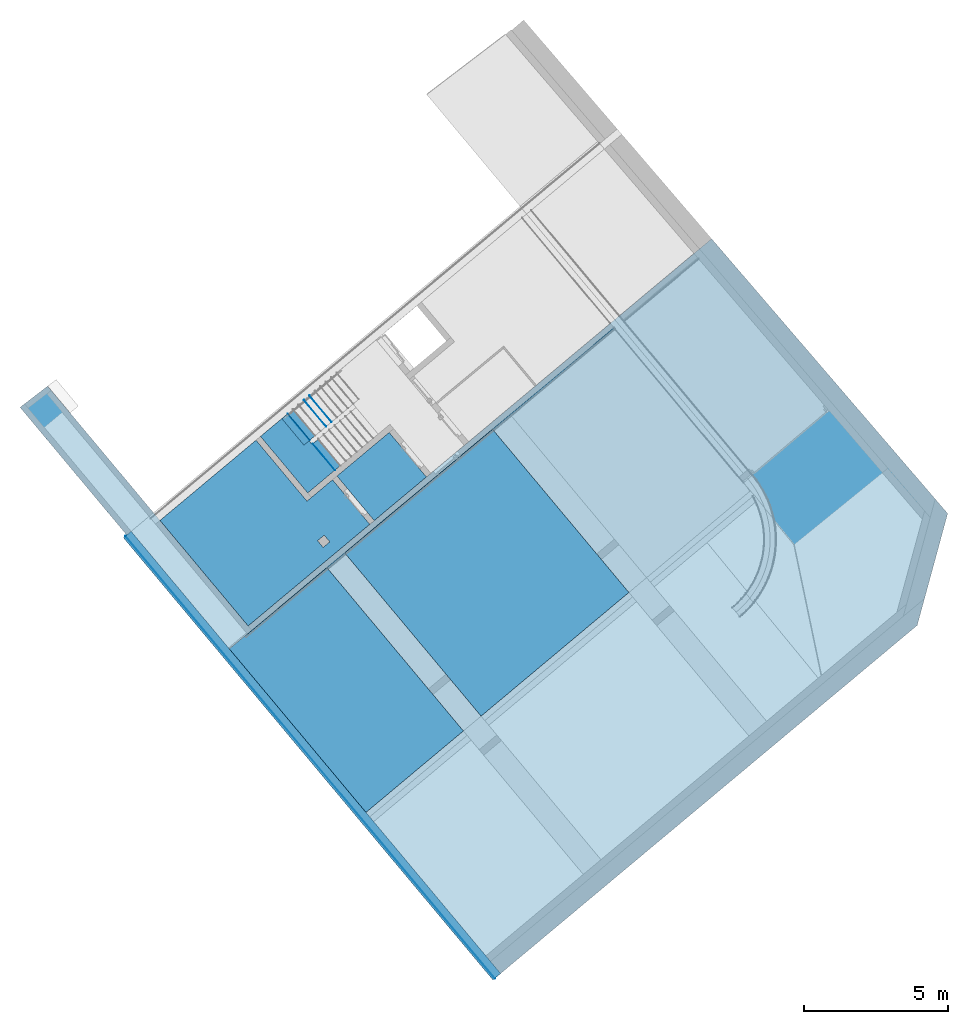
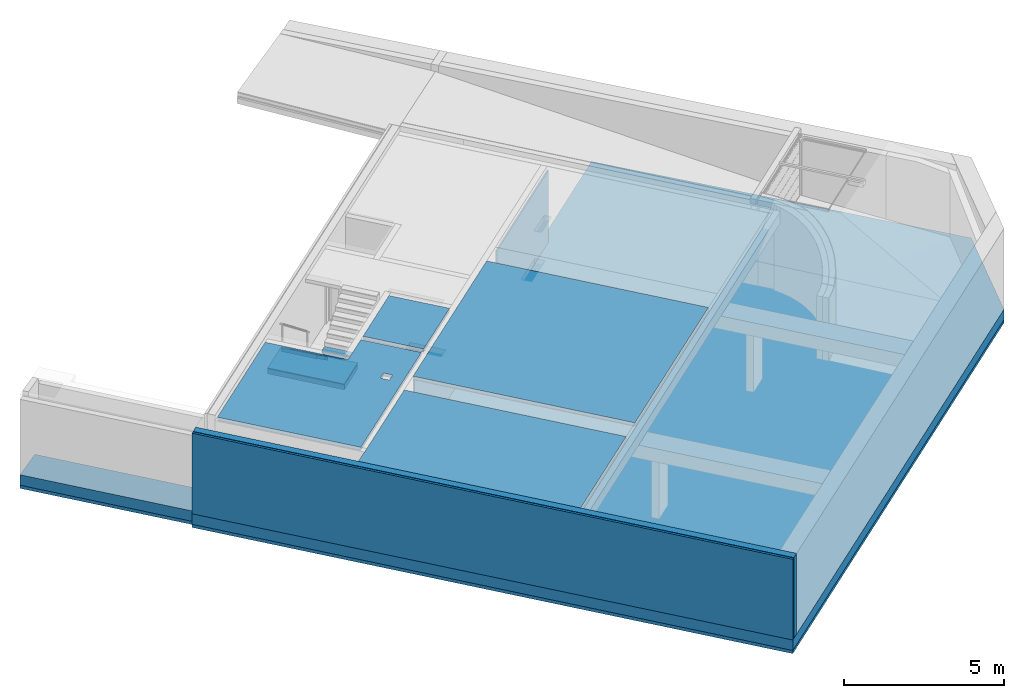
# One storey, part 8 of 14: 23 building element parts, 1 opening, 8 elements without a shape of their own.
"""IFC4 building model written with IfcOpenShell, lengths in metres."""

from ifc_helpers import new_model, entity, si_unit, converted_unit, derived_unit, direction, frame, origin_with_axes, place, context, subcontext, project, spatial, polygons, material, type_object, element, aggregate, save


model = new_model("IFC4")

# Units and contexts
model_context = context("Model", 3, precision=1e-05, world=origin_with_axes(), true_north=direction((0.0, 1.0)))
body_context = subcontext(model_context, "Body", "Model", "MODEL_VIEW")
ifc_project = project(units=[si_unit("LENGTHUNIT", "METRE"), si_unit("AREAUNIT", "SQUARE_METRE"), si_unit("VOLUMEUNIT", "CUBIC_METRE"), converted_unit("PLANEANGLEUNIT", "DEGREE", entity("IfcPlaneAngleMeasure", 0.0174532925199), si_unit("PLANEANGLEUNIT", "RADIAN"), dimensions=[0, 0, 0, 0, 0, 0, 0]), converted_unit("TIMEUNIT", "Year", entity("IfcTimeMeasure", 31556926.0), si_unit("TIMEUNIT", "SECOND"), dimensions=[0, 0, 1, 0, 0, 0, 0]), si_unit("MASSUNIT", "GRAM", prefix="KILO"), si_unit("THERMODYNAMICTEMPERATUREUNIT", "DEGREE_CELSIUS"), si_unit("LUMINOUSINTENSITYUNIT", "LUMEN"), si_unit("ENERGYUNIT", "JOULE", prefix="MEGA"), derived_unit("THERMALCONDUCTANCEUNIT", [(si_unit("POWERUNIT", "WATT"), 1), (si_unit("LENGTHUNIT", "METRE"), -1), (si_unit("THERMODYNAMICTEMPERATUREUNIT", "KELVIN"), -1)]), derived_unit("SPECIFICHEATCAPACITYUNIT", [(si_unit("ENERGYUNIT", "JOULE"), 1), (si_unit("MASSUNIT", "GRAM", prefix="KILO"), -1), (si_unit("THERMODYNAMICTEMPERATUREUNIT", "KELVIN"), -1)]), derived_unit("MASSDENSITYUNIT", [(si_unit("MASSUNIT", "GRAM", prefix="KILO"), 1), (si_unit("VOLUMEUNIT", "CUBIC_METRE"), -1)])], contexts=[model_context])

# Site, building, storey, space
site_placement = place(None, frame((-0.00153261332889, -0.00661245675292, 0.0), z_axis=(0.0, 0.0, 1.0), x_axis=(1.0, 0.0, 0.0)))
site = spatial("IfcSite", under=ifc_project, at=site_placement, Name="Gelände", CompositionType="ELEMENT")
building_placement = place(site_placement, origin_with_axes())
building = spatial("IfcBuilding", under=site, at=building_placement, Name="Gebäude", CompositionType="ELEMENT")
storey_placement = place(building_placement, frame((0.0, 0.0, -3.3), z_axis=(0.0, 0.0, 1.0), x_axis=(1.0, 0.0, 0.0)))
storey = spatial("IfcBuildingStorey", under=building, at=storey_placement, Name="UG1", CompositionType="ELEMENT", Elevation=-3.3)
space_1_placement = place(storey_placement, frame((-11.8951769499, 23.5097960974, 0.0), z_axis=(0.0, 0.0, 1.0), x_axis=(0.641209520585, -0.767365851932, 0.0)))
space_1 = spatial("IfcSpace", under=storey, at=space_1_placement, CompositionType="ELEMENT", PredefinedType="NOTDEFINED")

# Covering, opening, building element part
covering_type_1 = type_object("IfcCoveringType", Name="LB 6,5 cm einfach Vorsatzschale KG 65", PredefinedType="NOTDEFINED")
covering_1_placement = place(space_1_placement, frame((10.8993980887, 0.810381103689, 0.0), z_axis=(0.0, 0.0, 1.0), x_axis=(0.0, 1.0, 0.0)))
covering_1 = element("IfcCovering", 1, at=covering_1_placement, inside=space_1, type_object=covering_type_1, Name="Wand-007", PredefinedType="NOTDEFINED")
opening_placement = place(covering_1_placement, frame((9.12588353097, -1.57781343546e-10, 0.0), z_axis=(0.0, 0.0, 1.0), x_axis=(1.0, 0.0, 0.0)))
element("IfcOpeningElement", 2, at=opening_placement, cuts=covering_1, Name="Tür-001", context=body_context, identifier="Reference", shape_type="Tessellation", body=[
    polygons([(0.475, 8.16385069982, 2.05), (0.475, 8.16385069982, 0.0), (-0.475, 8.16385069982, 0.0), (-0.475, 8.16385069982, 2.05), (0.475, -8.22885069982, 2.05), (0.475, -8.22885069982, 0.0), (-0.475, -8.22885069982, 0.0), (-0.475, -8.22885069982, 2.05)], [[[1, 2, 3, 4]], [[5, 6, 2, 1]], [[6, 7, 3, 2]], [[7, 8, 4, 3]], [[8, 5, 1, 4]], [[7, 6, 5, 8]]], closed=True),
])
ifc_material_1 = material(Name="Mineralwolle weich")
building_element_part_1_placement = place(covering_1_placement, origin_with_axes())
building_element_part_1 = element("IfcBuildingElementPart", 3, at=building_element_part_1_placement, material=ifc_material_1, Name="Mineralwolle weich", PredefinedType="NOTDEFINED", context=body_context, shape_type="Tessellation", body=[
    polygons([(8.65088353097, -0.05, 0.0), (8.65088353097, -0.05, 2.05), (9.60088353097, -0.05, 2.05), (9.60088353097, -0.05, 0.0), (16.5897339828, -0.05, 0.0), (16.5897339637, -0.05, 2.75), (11.8956057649, -0.05, 2.75), (11.8956057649, -0.05, 2.15), (11.0956057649, -0.05, 2.15), (11.0956057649, -0.05, 2.75), (4.40043924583, -0.05, 2.75), (4.40043924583, -0.05, 2.1499999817), (3.60043924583, -0.05, 2.1499999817), (3.60043924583, -0.05, 2.75), (-0.100001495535, -0.05, 2.75), (-0.100001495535, -0.05, 0.0), (8.65088353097, 0.0, 0.0), (8.65088353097, 0.0, 2.05), (9.60088353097, 0.0, 2.05), (9.60088353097, 0.0, 0.0), (16.5897339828, 0.0, 0.0), (16.5897339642, -7.80723787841e-08, 2.75), (11.8956057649, 0.0, 2.75), (11.8956057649, 0.0, 2.15), (11.0956057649, 0.0, 2.15), (11.0956057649, 0.0, 2.75), (4.40043924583, 0.0, 2.75), (4.40043924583, 0.0, 2.1499999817), (3.60043924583, 0.0, 2.1499999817), (3.60043924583, 0.0, 2.75), (-0.100001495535, 0.0, 2.75), (-0.100001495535, 0.0, 0.0)], [[[1, 2, 3, 4, 5, 6, 7, 8, 9, 10, 11, 12, 13, 14, 15, 16]], [[2, 1, 17, 18]], [[3, 2, 18, 19]], [[4, 3, 19, 20]], [[4, 20, 21, 5]], [[22, 6, 5, 21]], [[7, 6, 22, 23]], [[7, 23, 24, 8]], [[8, 24, 25, 9]], [[10, 9, 25, 26]], [[11, 10, 26, 27]], [[11, 27, 28, 12]], [[12, 28, 29, 13]], [[14, 13, 29, 30]], [[30, 31, 15, 14]], [[15, 31, 32, 16]], [[17, 1, 16, 32]], [[18, 17, 32, 31, 30, 29, 28, 27, 26, 25, 24, 23, 22, 21, 20, 19]]], closed=True),
])
aggregate(covering_1, [building_element_part_1])

# Slab, building element parts
slab_type = type_object("IfcSlabType", Name="EB 01 Bodenplatte Garage 520", PredefinedType="NOTDEFINED")
slab_placement = place(storey_placement, frame((-11.2218153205, 24.2798734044, 0.0), z_axis=(0.0, 0.0, 1.0), x_axis=(1.0, 0.0, 0.0)))
slab = element("IfcSlab", 4, at=slab_placement, inside=storey, type_object=slab_type, Name="Decke-005", PredefinedType="NOTDEFINED")
ifc_material_2 = material(Name="WU-Beton")
building_element_part_2_placement = place(slab_placement, origin_with_axes())
building_element_part_2 = element("IfcBuildingElementPart", 5, at=building_element_part_2_placement, material=ifc_material_2, Name="WU-Beton", PredefinedType="NOTDEFINED", context=body_context, shape_type="Tessellation", body=[
    polygons([(-0.960476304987, -0.738562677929, -0.4), (-0.960476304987, -0.738562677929, 0.0), (0.0, 0.0, 0.0), (0.0, 0.0, -0.4), (2.74614217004, -5.17444884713, -0.4), (2.74614217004, -5.17444884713, 0.0), (2.63112516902, -5.27055684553, 0.0), (15.4634004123, -20.6275493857, 0.0), (30.2011220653, -8.31060248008, 0.0), (31.2597870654, -4.42669469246, 0.0), (23.0585823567, 5.11742060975, 0.0), (6.962540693, -8.33240274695, 0.0), (6.962540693, -8.33240274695, -0.4), (23.0585823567, 5.11742060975, -0.4), (31.2597870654, -4.42669469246, -0.4), (30.2011220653, -8.31060248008, -0.4), (15.4634004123, -20.6275493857, -0.4), (2.63112516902, -5.27055684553, -0.4)], [[[1, 2, 3, 4]], [[5, 6, 2, 1]], [[3, 2, 6, 7, 8, 9, 10, 11, 12]], [[4, 3, 12, 13]], [[4, 13, 14, 15, 16, 17, 18, 5, 1]], [[18, 7, 6, 5]], [[17, 8, 7, 18]], [[16, 9, 8, 17]], [[15, 10, 9, 16]], [[14, 11, 10, 15]], [[13, 12, 11, 14]]], closed=True),
])
ifc_material_3 = material(Name="Stampfbeton")
building_element_part_3_placement = place(slab_placement, origin_with_axes())
building_element_part_3 = element("IfcBuildingElementPart", 6, at=building_element_part_3_placement, material=ifc_material_3, Name="Stampfbeton", PredefinedType="NOTDEFINED", context=body_context, shape_type="Tessellation", body=[
    polygons([(0.0, 0.0, -0.4), (0.0, 0.0, -0.52), (-0.960476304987, -0.738562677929, -0.52), (-0.960476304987, -0.738562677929, -0.4), (6.962540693, -8.33240274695, -0.4), (6.962540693, -8.33240274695, -0.52), (23.0585823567, 5.11742060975, -0.52), (31.2597870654, -4.42669469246, -0.52), (30.2011220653, -8.31060248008, -0.52), (15.4634004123, -20.6275493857, -0.52), (2.63112516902, -5.27055684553, -0.52), (2.74614217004, -5.17444884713, -0.52), (2.74614217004, -5.17444884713, -0.4), (2.63112516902, -5.27055684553, -0.4), (15.4634004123, -20.6275493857, -0.4), (30.2011220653, -8.31060248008, -0.4), (31.2597870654, -4.42669469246, -0.4), (23.0585823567, 5.11742060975, -0.4)], [[[1, 2, 3, 4]], [[5, 6, 2, 1]], [[3, 2, 6, 7, 8, 9, 10, 11, 12]], [[4, 3, 12, 13]], [[5, 1, 4, 13, 14, 15, 16, 17, 18]], [[18, 7, 6, 5]], [[17, 8, 7, 18]], [[16, 9, 8, 17]], [[15, 10, 9, 16]], [[14, 11, 10, 15]], [[13, 12, 11, 14]]], closed=True),
])
aggregate(slab, [building_element_part_2, building_element_part_3])

# Wall, building element parts
wall_type = type_object("IfcWallType", Name="Keller-AW 350", PredefinedType="NOTDEFINED")
wall_placement = place(storey_placement, frame((-8.32211210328, 19.233739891, 0.0), z_axis=(0.0, 0.0, 1.0), x_axis=(0.641209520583, -0.767365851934, 0.0)))
wall = element("IfcWall", 7, at=wall_placement, inside=storey, type_object=wall_type, Name="Wand-002", PredefinedType="NOTDEFINED")
ifc_material_4 = material(Name="Stahlbeton Decke Garage")
building_element_part_4_placement = place(wall_placement, origin_with_axes())
building_element_part_4 = element("IfcBuildingElementPart", 8, at=building_element_part_4_placement, material=ifc_material_4, Name="Stahlbeton Decke Garage", PredefinedType="NOTDEFINED", context=body_context, shape_type="Tessellation", body=[
    polygons([(20.0126087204, 0.0, 0.0), (20.0126087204, -0.25, 0.0), (0.0, -0.25, 0.0), (0.0, 0.0, 0.0), (20.0126087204, 0.0, 3.08), (20.0126087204, -0.25, 3.08), (0.0, -0.25, 3.08), (0.0, 0.0, 3.08)], [[[1, 2, 3, 4]], [[1, 5, 6, 2]], [[2, 6, 7, 3]], [[4, 3, 7, 8]], [[5, 1, 4, 8]], [[6, 5, 8, 7]]], closed=True),
])
ifc_material_5 = material(Name="Sperrschicht")
building_element_part_5_placement = place(wall_placement, origin_with_axes())
building_element_part_5 = element("IfcBuildingElementPart", 9, at=building_element_part_5_placement, material=ifc_material_5, Name="Sperrschicht", PredefinedType="NOTDEFINED", context=body_context, shape_type="Tessellation", body=[
    polygons([(20.0126087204, -0.25, 0.0), (20.0126087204, -0.27, 0.0), (0.0, -0.27, 0.0), (0.0, -0.25, 0.0), (20.0126087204, -0.25, 3.08), (20.0126087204, -0.27, 3.08), (0.0, -0.27, 3.08), (0.0, -0.25, 3.08)], [[[1, 2, 3, 4]], [[1, 5, 6, 2]], [[2, 6, 7, 3]], [[4, 3, 7, 8]], [[5, 1, 4, 8]], [[6, 5, 8, 7]]], closed=True),
])
ifc_material_6 = material(Name="XPS KG")
building_element_part_6_placement = place(wall_placement, origin_with_axes())
building_element_part_6 = element("IfcBuildingElementPart", 10, at=building_element_part_6_placement, material=ifc_material_6, Name="XPS KG", PredefinedType="NOTDEFINED", context=body_context, shape_type="Tessellation", body=[
    polygons([(20.0126087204, -0.27, 0.0), (20.0126087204, -0.35, 0.0), (0.0, -0.35, 0.0), (0.0, -0.27, 0.0), (20.0126087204, -0.27, 3.08), (20.0126087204, -0.35, 3.08), (0.0, -0.35, 3.08), (0.0, -0.27, 3.08)], [[[1, 2, 3, 4]], [[1, 5, 6, 2]], [[2, 6, 7, 3]], [[4, 3, 7, 8]], [[5, 1, 4, 8]], [[6, 5, 8, 7]]], closed=True),
])
aggregate(wall, [building_element_part_4, building_element_part_5, building_element_part_6])

# Covering, building element parts
covering_type_2 = type_object("IfcCoveringType", Name="Vorsatzschale Garage 130", PredefinedType="NOTDEFINED")
covering_2_placement = place(storey_placement, frame((3.21781801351, 12.3022646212, 2.88), z_axis=(0.0, 0.0, 1.0), x_axis=(1.0, 0.0, 0.0)))
covering_2 = element("IfcCovering", 11, at=covering_2_placement, inside=storey, type_object=covering_type_2, Name="Decke-006", PredefinedType="NOTDEFINED")
ifc_material_7 = material(Name="Holzwolledämmplatte")
building_element_part_7_placement = place(covering_2_placement, origin_with_axes())
building_element_part_7 = element("IfcBuildingElementPart", 12, at=building_element_part_7_placement, material=ifc_material_7, Name="Holzwolledämmplatte", PredefinedType="NOTDEFINED", context=body_context, shape_type="Tessellation", body=[
    polygons([(-4.73948422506, 5.6719655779, -0.12), (-4.73948422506, 5.6719655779, 0.0), (0.0, 0.0, 0.0), (0.0, 0.0, -0.12), (-7.34886518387, 3.49157155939, 0.0), (-7.34886518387, 3.49157155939, -0.12), (-7.5023383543, 3.36332965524, 0.0), (-7.50867826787, 3.37091728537, 0.0), (-8.13196424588, 2.85300083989, 0.0), (-3.38289253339, -2.83043857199, 0.0), (-3.38289253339, -2.83043857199, -0.12), (-8.13196424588, 2.85300083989, -0.12), (-7.50867826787, 3.37091728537, -0.12), (-7.5023383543, 3.36332965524, -0.12)], [[[1, 2, 3, 4]], [[5, 2, 1, 6]], [[2, 5, 7, 8, 9, 10, 3]], [[10, 11, 4, 3]], [[6, 1, 4, 11, 12, 13, 14]], [[5, 6, 14, 7]], [[8, 7, 14, 13]], [[8, 13, 12, 9]], [[11, 10, 9, 12]]], closed=True),
])
ifc_material_8 = material(Name="Zementputz")
building_element_part_8_placement = place(covering_2_placement, origin_with_axes())
building_element_part_8 = element("IfcBuildingElementPart", 13, at=building_element_part_8_placement, material=ifc_material_8, Name="Zementputz", PredefinedType="NOTDEFINED", context=body_context, shape_type="Tessellation", body=[
    polygons([(0.0, 0.0, -0.12), (0.0, 0.0, -0.13), (-4.73948422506, 5.6719655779, -0.13), (-4.73948422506, 5.6719655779, -0.12), (-3.38289253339, -2.83043857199, -0.12), (-3.38289253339, -2.83043857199, -0.13), (-7.50867826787, 3.37091728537, -0.13), (-7.5023383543, 3.36332965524, -0.13), (-7.34886518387, 3.49157155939, -0.13), (-8.13196424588, 2.85300083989, -0.13), (-7.34886518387, 3.49157155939, -0.12), (-7.5023383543, 3.36332965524, -0.12), (-7.50867826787, 3.37091728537, -0.12), (-8.13196424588, 2.85300083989, -0.12)], [[[1, 2, 3, 4]], [[2, 1, 5, 6]], [[7, 8, 9, 3, 2, 6, 10]], [[3, 9, 11, 4]], [[5, 1, 4, 11, 12, 13, 14]], [[14, 10, 6, 5]], [[8, 7, 13, 12]], [[8, 12, 11, 9]], [[10, 14, 13, 7]]], closed=True),
])
aggregate(covering_2, [building_element_part_7, building_element_part_8])

covering_3_placement = place(storey_placement, frame((8.96620806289, 17.1120002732, 2.88), z_axis=(0.0, 0.0, 1.0), x_axis=(1.0, 0.0, 0.0)))
covering_3 = element("IfcCovering", 14, at=covering_3_placement, inside=storey, type_object=covering_type_2, Name="Decke-005", PredefinedType="NOTDEFINED")
building_element_part_9_placement = place(covering_3_placement, origin_with_axes())
building_element_part_9 = element("IfcBuildingElementPart", 15, at=building_element_part_9_placement, material=ifc_material_7, Name="Holzwolledämmplatte", PredefinedType="NOTDEFINED", context=body_context, shape_type="Tessellation", body=[
    polygons([(0.0, 0.0, -0.12), (-4.73633943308, 5.66820205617, -0.12), (-4.73633943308, 5.66820205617, 0.0), (0.0, 0.0, 0.0), (-5.1348330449, -4.29636634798, -0.12), (-9.87398159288, 1.37519754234, -0.12), (-9.87398159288, 1.37519754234, 0.0), (-5.1348330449, -4.29636634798, 0.0)], [[[1, 2, 3, 4]], [[2, 1, 5, 6]], [[2, 6, 7, 3]], [[8, 4, 3, 7]], [[5, 1, 4, 8]], [[6, 5, 8, 7]]], closed=True),
])
building_element_part_10_placement = place(covering_3_placement, origin_with_axes())
building_element_part_10 = element("IfcBuildingElementPart", 16, at=building_element_part_10_placement, material=ifc_material_8, Name="Zementputz", PredefinedType="NOTDEFINED", context=body_context, shape_type="Tessellation", body=[
    polygons([(-4.73633943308, 5.66820205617, -0.13), (-4.73633943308, 5.66820205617, -0.12), (0.0, 0.0, -0.12), (0.0, 0.0, -0.13), (-9.87398159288, 1.37519754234, -0.13), (-9.87398159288, 1.37519754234, -0.12), (-5.1348330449, -4.29636634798, -0.12), (-5.1348330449, -4.29636634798, -0.13)], [[[1, 2, 3, 4]], [[5, 6, 2, 1]], [[2, 6, 7, 3]], [[4, 3, 7, 8]], [[8, 5, 1, 4]], [[8, 7, 6, 5]]], closed=True),
])
aggregate(covering_3, [building_element_part_9, building_element_part_10])

covering_4_placement = place(storey_placement, frame((-1.17463904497, 21.1543498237, 2.88), z_axis=(0.0, 0.0, 1.0), x_axis=(1.0, 0.0, 0.0)))
covering_4 = element("IfcCovering", 17, at=covering_4_placement, inside=storey, type_object=covering_type_2, Name="Decke-006", PredefinedType="NOTDEFINED")
building_element_part_11_placement = place(covering_4_placement, origin_with_axes())
building_element_part_11 = element("IfcBuildingElementPart", 18, at=building_element_part_11_placement, material=ifc_material_7, Name="Holzwolledämmplatte", PredefinedType="NOTDEFINED", context=body_context, shape_type="Tessellation", body=[
    polygons([(1.29383134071, -1.54838934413, -0.12), (1.29383134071, -1.54838934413, 0.0), (0.0, 0.0, 0.0), (0.0, 0.0, -0.12), (3.10864371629, -0.03193539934, -0.12), (3.10864371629, -0.03193539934, 0.0), (1.81481237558, 1.51645394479, 0.0), (1.81481237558, 1.51645394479, -0.12)], [[[1, 2, 3, 4]], [[5, 6, 2, 1]], [[3, 2, 6, 7]], [[4, 3, 7, 8]], [[4, 8, 5, 1]], [[8, 7, 6, 5]]], closed=True),
])
building_element_part_12_placement = place(covering_4_placement, origin_with_axes())
building_element_part_12 = element("IfcBuildingElementPart", 19, at=building_element_part_12_placement, material=ifc_material_8, Name="Zementputz", PredefinedType="NOTDEFINED", context=body_context, shape_type="Tessellation", body=[
    polygons([(0.0, 0.0, -0.13), (1.29383134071, -1.54838934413, -0.13), (1.29383134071, -1.54838934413, -0.12), (0.0, 0.0, -0.12), (1.81481237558, 1.51645394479, -0.13), (3.10864371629, -0.03193539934, -0.13), (3.10864371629, -0.03193539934, -0.12), (1.81481237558, 1.51645394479, -0.12)], [[[1, 2, 3, 4]], [[1, 5, 6, 2]], [[2, 6, 7, 3]], [[4, 3, 7, 8]], [[5, 1, 4, 8]], [[6, 5, 8, 7]]], closed=True),
])
aggregate(covering_4, [building_element_part_11, building_element_part_12])

covering_5_placement = place(storey_placement, frame((-1.32811221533, 21.0261079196, 2.88), z_axis=(0.0, 0.0, 1.0), x_axis=(1.0, 0.0, 0.0)))
covering_5 = element("IfcCovering", 20, at=covering_5_placement, inside=storey, type_object=covering_type_2, Name="Decke-007", PredefinedType="NOTDEFINED")
building_element_part_13_placement = place(covering_5_placement, origin_with_axes())
building_element_part_13 = element("IfcBuildingElementPart", 21, at=building_element_part_13_placement, material=ifc_material_7, Name="Holzwolledämmplatte", PredefinedType="NOTDEFINED", context=body_context, shape_type="Tessellation", body=[
    polygons([(-2.65642321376, 1.3759940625, -0.12), (-2.65642321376, 1.3759940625, 0.0), (-0.887188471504, -0.741333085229, 0.0), (-0.887188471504, -0.741333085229, -0.12), (-5.99415672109, -1.41300667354, 0.0), (-5.99415672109, -1.41300667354, -0.12), (-2.93117332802, -5.07879561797, 0.0), (1.29383134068, -1.54838934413, 0.0), (0.0, 0.0, 0.0), (-0.51795362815, -2.1194813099, 0.0), (-0.287743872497, -1.92711845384, 0.0), (-0.0953810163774, -2.15732820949, 0.0), (-0.32559077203, -2.34969106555, 0.0), (0.0, 0.0, -0.12), (1.29383134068, -1.54838934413, -0.12), (-2.93117332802, -5.07879561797, -0.12), (-0.0953810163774, -2.15732820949, -0.12), (-0.287743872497, -1.92711845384, -0.12), (-0.51795362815, -2.1194813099, -0.12), (-0.32559077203, -2.34969106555, -0.12)], [[[1, 2, 3, 4]], [[5, 2, 1, 6]], [[2, 5, 7, 8, 9, 3], [10, 11, 12, 13]], [[14, 4, 3, 9]], [[6, 1, 4, 14, 15, 16], [17, 18, 19, 20]], [[5, 6, 16, 7]], [[16, 15, 8, 7]], [[15, 14, 9, 8]], [[19, 18, 11, 10]], [[18, 17, 12, 11]], [[17, 20, 13, 12]], [[20, 19, 10, 13]]], closed=True),
])
building_element_part_14_placement = place(covering_5_placement, origin_with_axes())
building_element_part_14 = element("IfcBuildingElementPart", 22, at=building_element_part_14_placement, material=ifc_material_8, Name="Zementputz", PredefinedType="NOTDEFINED", context=body_context, shape_type="Tessellation", body=[
    polygons([(-2.65642321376, 1.3759940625, -0.13), (-2.65642321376, 1.3759940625, -0.12), (-0.887188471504, -0.741333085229, -0.12), (-0.887188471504, -0.741333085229, -0.13), (-5.99415672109, -1.41300667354, -0.12), (-5.99415672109, -1.41300667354, -0.13), (-2.93117332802, -5.07879561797, -0.12), (1.29383134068, -1.54838934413, -0.12), (0.0, 0.0, -0.12), (-0.51795362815, -2.1194813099, -0.12), (-0.287743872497, -1.92711845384, -0.12), (-0.0953810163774, -2.15732820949, -0.12), (-0.32559077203, -2.34969106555, -0.12), (0.0, 0.0, -0.13), (1.29383134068, -1.54838934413, -0.13), (-2.93117332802, -5.07879561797, -0.13), (-0.0953810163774, -2.15732820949, -0.13), (-0.287743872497, -1.92711845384, -0.13), (-0.51795362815, -2.1194813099, -0.13), (-0.32559077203, -2.34969106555, -0.13)], [[[1, 2, 3, 4]], [[5, 2, 1, 6]], [[2, 5, 7, 8, 9, 3], [10, 11, 12, 13]], [[9, 14, 4, 3]], [[6, 1, 4, 14, 15, 16], [17, 18, 19, 20]], [[5, 6, 16, 7]], [[7, 16, 15, 8]], [[8, 15, 14, 9]], [[10, 19, 18, 11]], [[11, 18, 17, 12]], [[12, 17, 20, 13]], [[13, 20, 19, 10]]], closed=True),
])
aggregate(covering_5, [building_element_part_13, building_element_part_14])

# Space
space_2_placement = place(storey_placement, frame((-3.82859754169, 22.5273942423, 0.0164638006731), z_axis=(0.0, 0.0, 1.0), x_axis=(0.641209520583, -0.767365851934, 0.0)))
space_2 = spatial("IfcSpace", under=storey, at=space_2_placement, CompositionType="ELEMENT", PredefinedType="NOTDEFINED")

# Stair, building element parts
stair_type = type_object("IfcStairType", Name="Treppentyp", PredefinedType="NOTDEFINED")
stair_placement = place(space_2_placement, frame((-0.00445260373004, 3.72621375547, -0.0164638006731), z_axis=(0.0, 0.0, 1.0), x_axis=(0.641209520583, 0.767365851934, 0.0)))
stair = element("IfcStair", 23, at=stair_placement, inside=space_2, type_object=stair_type, Name="Treppe - 001", PredefinedType="NOTDEFINED")
ifc_material_9 = material(Name="Stahlbeton Decke")
building_element_part_15_placement = place(stair_placement, origin_with_axes())
building_element_part_15 = element("IfcBuildingElementPart", 24, at=building_element_part_15_placement, material=ifc_material_9, Name="Stahlbeton Decke", PredefinedType="NOTDEFINED", context=body_context, shape_type="Tessellation", body=[
    polygons([(-1.89949387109, -1.58704854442, 1.54166666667), (-1.13008955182, -2.5079269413, 1.54166666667), (-1.13008956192, -2.50792694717, 1.565), (-1.89949385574, -1.58704854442, 1.565), (-2.11780239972, -1.76944779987, 1.54166666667), (-1.34839808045, -2.69032619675, 1.54166666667), (-1.13008955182, -2.5079269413, 1.33791842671), (-1.06699233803, -2.45520850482, 1.27902954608), (-1.00389511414, -2.40249006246, 1.22014065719), (-0.940797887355, -2.34977162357, 1.1612517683), (-0.877700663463, -2.29705318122, 1.10236287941), (-0.81460343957, -2.24433473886, 1.04347399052), (-0.751506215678, -2.19161629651, 0.984585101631), (-0.688408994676, -2.13889785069, 0.925696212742), (-0.625311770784, -2.08617940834, 0.866807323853), (-0.562214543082, -2.03346097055, 0.807918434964), (-0.499117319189, -1.98074252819, 0.749029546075), (-0.436020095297, -1.92802408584, 0.690140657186), (-0.372922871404, -1.87530564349, 0.631251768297), (-0.309825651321, -1.82258719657, 0.572362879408), (-0.246728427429, -1.76986875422, 0.51347399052), (-0.183631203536, -1.71715031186, 0.454585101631), (-0.120533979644, -1.66443186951, 0.395696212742), (-0.0574367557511, -1.61171342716, 0.336807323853), (0.00566047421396, -1.55899499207, 0.277918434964), (0.0687576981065, -1.50627654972, 0.219029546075), (0.131854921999, -1.45355810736, 0.160140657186), (0.194952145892, -1.40083966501, 0.101251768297), (0.25804936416, -1.34812121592, 0.0423628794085), (0.321146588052, -1.29540277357, -0.0165260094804), (0.36242411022, -1.26091493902, -0.0550504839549), (0.362424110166, -1.26091493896, -0.15), (0.554273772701, -1.10062237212, -0.15), (0.554273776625, -1.10062237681, 0.151666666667), (0.364982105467, -1.2587777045, 0.151666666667), (0.364982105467, -1.2587777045, 0.328333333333), (0.175690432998, -1.41693303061, 0.328333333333), (0.175690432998, -1.41693303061, 0.505), (-0.0136012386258, -1.57508835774, 0.505), (-0.0136012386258, -1.57508835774, 0.681666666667), (-0.202892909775, -1.73324368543, 0.681666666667), (-0.202892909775, -1.73324368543, 0.858333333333), (-0.392184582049, -1.89139901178, 0.858333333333), (-0.392184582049, -1.89139901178, 1.035), (-0.581476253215, -2.04955433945, 1.035), (-0.581476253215, -2.04955433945, 1.21166666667), (-0.770767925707, -2.20770966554, 1.21166666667), (-0.770767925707, -2.20770966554, 1.38833333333), (-0.96005959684, -2.36586499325, 1.38833333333), (-0.96005959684, -2.36586499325, 1.565), (-1.72946389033, -1.44498659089, 1.565), (-1.72946389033, -1.44498659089, 1.38833333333), (-1.54017221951, -1.28683126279, 1.38833333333), (-1.54017221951, -1.28683126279, 1.21166666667), (-1.35088054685, -1.12867593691, 1.21166666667), (-1.35088054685, -1.12867593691, 1.035), (-1.16158887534, -0.970520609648, 1.035), (-1.16158887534, -0.970520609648, 0.858333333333), (-0.972297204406, -0.812365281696, 0.858333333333), (-0.972297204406, -0.812365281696, 0.681666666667), (-0.783005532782, -0.65420995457, 0.681666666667), (-0.783005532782, -0.65420995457, 0.505), (-0.59371386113, -0.496054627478, 0.505), (-0.59371386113, -0.496054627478, 0.328333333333), (-0.404422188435, -0.337899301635, 0.328333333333), (-0.404422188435, -0.337899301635, 0.151666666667), (-0.215130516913, -0.179743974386, 0.151666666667), (-0.215130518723, -0.17974397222, -0.15), (-0.406980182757, -0.340036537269, -0.15), (-0.40698018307, -0.340036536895, -0.0550504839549), (-0.448257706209, -0.374524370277, -0.0165260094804), (-0.511354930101, -0.427242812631, 0.0423628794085), (-0.574452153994, -0.479961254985, 0.101251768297), (-0.637549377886, -0.532679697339, 0.160140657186), (-0.700646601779, -0.585398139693, 0.219029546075), (-0.763743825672, -0.638116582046, 0.277918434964), (-0.826841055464, -0.690835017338, 0.336807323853), (-0.889938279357, -0.743553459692, 0.395696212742), (-0.953035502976, -0.796271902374, 0.454585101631), (-1.01613272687, -0.848990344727, 0.51347399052), (-1.07922995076, -0.901708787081, 0.572362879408), (-1.14232717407, -0.954427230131, 0.631251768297), (-1.20542439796, -1.00714567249, 0.690140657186), (-1.26852162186, -1.05986411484, 0.749029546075), (-1.3316188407, -1.11258256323, 0.807918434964), (-1.3947160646, -1.16530100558, 0.866807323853), (-1.45781328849, -1.21801944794, 0.925696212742), (-1.52091051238, -1.27073789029, 0.984585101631), (-1.58400773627, -1.32345633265, 1.04347399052), (-1.64710496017, -1.376174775, 1.10236287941), (-1.71020218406, -1.42889321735, 1.1612517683), (-1.77329941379, -1.48161165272, 1.22014065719), (-1.83639663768, -1.53433009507, 1.27902954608), (-1.89949387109, -1.58704854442, 1.3379184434)], [[[1, 2, 3, 4]], [[2, 1, 5, 6]], [[7, 8, 9, 10, 11, 12, 13, 14, 15, 16, 17, 18, 19, 20, 21, 22, 23, 24, 25, 26, 27, 28, 29, 30, 31, 32, 33, 34, 35, 36, 37, 38, 39, 40, 41, 42, 43, 44, 45, 46, 47, 48, 49, 50, 3, 2, 6]], [[3, 50, 51, 4]], [[1, 4, 51, 52, 53, 54, 55, 56, 57, 58, 59, 60, 61, 62, 63, 64, 65, 66, 67, 68, 69, 70, 71, 72, 73, 74, 75, 76, 77, 78, 79, 80, 81, 82, 83, 84, 85, 86, 87, 88, 89, 90, 91, 92, 93, 94, 5]], [[94, 93, 8, 7, 6, 5]], [[9, 8, 93, 92]], [[10, 9, 92, 91]], [[11, 10, 91, 90]], [[12, 11, 90, 89]], [[13, 12, 89, 88]], [[14, 13, 88, 87]], [[15, 14, 87, 86]], [[16, 15, 86, 85]], [[17, 16, 85, 84]], [[18, 17, 84, 83]], [[19, 18, 83, 82]], [[20, 19, 82, 81]], [[21, 20, 81, 80]], [[22, 21, 80, 79]], [[23, 22, 79, 78]], [[24, 23, 78, 77]], [[25, 24, 77, 76]], [[26, 25, 76, 75]], [[27, 26, 75, 74]], [[28, 27, 74, 73]], [[29, 28, 73, 72]], [[30, 29, 72, 71]], [[30, 71, 70, 31]], [[69, 32, 31, 70]], [[69, 68, 33, 32]], [[68, 67, 34, 33]], [[67, 66, 35, 34]], [[66, 65, 36, 35]], [[37, 36, 65, 64]], [[64, 63, 38, 37]], [[38, 63, 62, 39]], [[62, 61, 40, 39]], [[40, 61, 60, 41]], [[60, 59, 42, 41]], [[42, 59, 58, 43]], [[58, 57, 44, 43]], [[44, 57, 56, 45]], [[56, 55, 46, 45]], [[46, 55, 54, 47]], [[54, 53, 48, 47]], [[48, 53, 52, 49]], [[52, 51, 50, 49]]], closed=True),
])
building_element_part_16_placement = place(stair_placement, origin_with_axes())
building_element_part_16 = element("IfcBuildingElementPart", 25, at=building_element_part_16_placement, material=ifc_material_9, Name="Stahlbeton Decke", PredefinedType="NOTDEFINED", context=body_context, shape_type="Tessellation", body=[
    polygons([(-0.284297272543, -3.57341620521, 1.54166666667), (-0.284297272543, -3.57341620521, 1.74166666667), (-1.21798603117, -4.3536048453, 1.74166666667), (-1.21798603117, -4.3536048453, 1.54166666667), (-1.05374871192, -2.65257717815, 1.74166666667), (-1.05374871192, -2.65257717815, 1.54166666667), (-1.06659840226, -2.66331437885, 1.74166666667), (-1.16916164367, -2.54057210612, 1.74166666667), (-1.14927454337, -2.52395619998, 1.74166666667), (-1.91875555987, -1.6031419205, 1.74166666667), (-2.85949147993, -2.38913739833, 1.74166666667), (-2.85949147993, -2.38913739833, 1.54166666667), (-1.89949387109, -1.58704854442, 1.54166666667), (-1.13008955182, -2.5079269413, 1.54166666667), (-1.16916164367, -2.54057210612, 1.54166666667), (-1.06659840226, -2.66331437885, 1.54166666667), (-1.13008956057, -2.50792693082, 1.565), (-1.14927454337, -2.52395619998, 1.565), (-1.91875555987, -1.6031419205, 1.565), (-1.89949386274, -1.58704855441, 1.565)], [[[1, 2, 3, 4]], [[5, 2, 1, 6]], [[2, 5, 7, 8, 9, 10, 11, 3]], [[12, 4, 3, 11]], [[6, 1, 4, 12, 13, 14, 15, 16]], [[5, 6, 16, 7]], [[16, 15, 8, 7]], [[17, 18, 9, 8, 15, 14]], [[19, 10, 9, 18]], [[10, 19, 20, 13, 12, 11]], [[13, 20, 17, 14]], [[19, 18, 17, 20]]], closed=True),
])
ifc_material_10 = material(Name="BEKLEIDUNG")
building_element_part_17_placement = place(stair_placement, origin_with_axes())
building_element_part_17 = element("IfcBuildingElementPart", 26, at=building_element_part_17_placement, material=ifc_material_10, Name="BEKLEIDUNG", PredefinedType="NOTDEFINED", context=body_context, shape_type="Tessellation", body=[
    polygons([(-1.15383814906, -0.964044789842, 1.035), (-1.16151213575, -0.970456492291, 1.035), (-0.392107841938, -1.89133489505, 1.035), (-0.384433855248, -1.8849231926, 1.035), (-1.15383814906, -0.964044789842, 0.883333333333), (-1.16151213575, -0.970456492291, 0.883333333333), (-0.392107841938, -1.89133489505, 0.883333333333), (-0.384433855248, -1.8849231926, 0.883333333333)], [[[1, 2, 3, 4]], [[1, 5, 6, 2]], [[2, 6, 7, 3]], [[4, 3, 7, 8]], [[5, 1, 4, 8]], [[6, 5, 8, 7]]], closed=True),
])
building_element_part_18_placement = place(stair_placement, origin_with_axes())
building_element_part_18 = element("IfcBuildingElementPart", 27, at=building_element_part_18_placement, material=ifc_material_10, Name="BEKLEIDUNG", PredefinedType="NOTDEFINED", context=body_context, shape_type="Tessellation", body=[
    polygons([(-1.34312982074, -1.1222001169, 1.21166666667), (-1.35080380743, -1.12861181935, 1.21166666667), (-0.581399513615, -2.04949022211, 1.21166666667), (-0.573725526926, -2.04307851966, 1.21166666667), (-1.34312982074, -1.1222001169, 1.06), (-1.35080380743, -1.12861181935, 1.06), (-0.581399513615, -2.04949022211, 1.06), (-0.573725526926, -2.04307851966, 1.06)], [[[1, 2, 3, 4]], [[1, 5, 6, 2]], [[2, 6, 7, 3]], [[4, 3, 7, 8]], [[5, 1, 4, 8]], [[6, 5, 8, 7]]], closed=True),
])
building_element_part_19_placement = place(stair_placement, origin_with_axes())
building_element_part_19 = element("IfcBuildingElementPart", 28, at=building_element_part_19_placement, material=ifc_material_10, Name="BEKLEIDUNG", PredefinedType="NOTDEFINED", context=body_context, shape_type="Tessellation", body=[
    polygons([(-1.91100483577, -1.59666609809, 1.74166666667), (-1.91867882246, -1.60307780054, 1.74166666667), (-1.14927452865, -2.52395620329, 1.74166666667), (-1.14160054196, -2.51754450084, 1.74166666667), (-1.91100483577, -1.59666609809, 1.59), (-1.91867882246, -1.60307780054, 1.59), (-1.14927452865, -2.52395620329, 1.59), (-1.14160054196, -2.51754450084, 1.59)], [[[1, 2, 3, 4]], [[1, 5, 6, 2]], [[2, 6, 7, 3]], [[4, 3, 7, 8]], [[5, 1, 4, 8]], [[6, 5, 8, 7]]], closed=True),
])
building_element_part_20_placement = place(stair_placement, origin_with_axes())
building_element_part_20 = element("IfcBuildingElementPart", 29, at=building_element_part_20_placement, material=ifc_material_10, Name="BEKLEIDUNG", PredefinedType="NOTDEFINED", context=body_context, shape_type="Tessellation", body=[
    polygons([(-0.272786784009, -3.56379807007, 1.91833333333), (-0.26511312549, -3.55738597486, 1.91833333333), (-1.03456455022, -2.63654695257, 1.91833333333), (-1.04223820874, -2.64295904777, 1.91833333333), (-0.272786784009, -3.56379807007, 1.76666666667), (-0.26511312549, -3.55738597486, 1.76666666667), (-1.03456455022, -2.63654695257, 1.76666666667), (-1.04223820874, -2.64295904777, 1.76666666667)], [[[1, 2, 3, 4]], [[1, 5, 6, 2]], [[2, 6, 7, 3]], [[4, 3, 7, 8]], [[5, 1, 4, 8]], [[6, 5, 8, 7]]], closed=True),
])
building_element_part_21_placement = place(stair_placement, origin_with_axes())
building_element_part_21 = element("IfcBuildingElementPart", 30, at=building_element_part_21_placement, material=ifc_material_10, Name="BEKLEIDUNG", PredefinedType="NOTDEFINED", context=body_context, shape_type="Tessellation", body=[
    polygons([(-0.940797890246, -2.34977162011, 1.565), (-1.71020218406, -1.42889321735, 1.565), (-1.71020218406, -1.42889321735, 1.59), (-0.940797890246, -2.34977162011, 1.59), (-1.14927452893, -2.52395620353, 1.565), (-1.9186788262, -1.60307780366, 1.565), (-1.9186788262, -1.60307780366, 1.59), (-1.14927452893, -2.52395620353, 1.59)], [[[1, 2, 3, 4]], [[1, 5, 6, 2]], [[2, 6, 7, 3]], [[4, 3, 7, 8]], [[5, 1, 4, 8]], [[6, 5, 8, 7]]], closed=True),
])
building_element_part_22_placement = place(stair_placement, origin_with_axes())
building_element_part_22 = element("IfcBuildingElementPart", 31, at=building_element_part_22_placement, material=ifc_material_10, Name="BEKLEIDUNG", PredefinedType="NOTDEFINED", context=body_context, shape_type="Tessellation", body=[
    polygons([(-1.13008956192, -2.50792694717, 1.74166666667), (-1.89949385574, -1.58704854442, 1.74166666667), (-1.89949385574, -1.58704854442, 1.76666666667), (-1.13008956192, -2.50792694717, 1.76666666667), (-1.16478615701, -2.53691634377, 1.74166666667), (-1.16916165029, -2.54057211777, 1.74166666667), (-1.0665984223, -2.66331439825, 1.74166666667), (-1.06217598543, -2.65961901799, 1.74166666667), (-1.03456455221, -2.63654695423, 1.74166666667), (-0.265113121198, -3.55738597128, 1.74166666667), (-0.292724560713, -3.58045804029, 1.74166666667), (-1.21798601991, -4.3536048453, 1.74166666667), (-2.85949147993, -2.38913738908, 1.74166666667), (-1.93419045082, -1.61603794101, 1.74166666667), (-1.93419045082, -1.61603794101, 1.76666666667), (-2.85949147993, -2.38913738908, 1.76666666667), (-1.21798601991, -4.3536048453, 1.76666666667), (-0.292724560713, -3.58045804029, 1.76666666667), (-0.265113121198, -3.55738597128, 1.76666666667), (-1.03456455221, -2.63654695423, 1.76666666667), (-1.06217598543, -2.65961901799, 1.76666666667), (-1.0665984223, -2.66331439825, 1.76666666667), (-1.16916165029, -2.54057211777, 1.76666666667), (-1.16478615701, -2.53691634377, 1.76666666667)], [[[1, 2, 3, 4]], [[1, 5, 6, 7, 8, 9, 10, 11, 12, 13, 14, 2]], [[2, 14, 15, 3]], [[4, 3, 15, 16, 17, 18, 19, 20, 21, 22, 23, 24]], [[5, 1, 4, 24]], [[6, 5, 24, 23]], [[7, 6, 23, 22]], [[8, 7, 22, 21]], [[9, 8, 21, 20]], [[10, 9, 20, 19]], [[11, 10, 19, 18]], [[12, 11, 18, 17]], [[13, 12, 17, 16]], [[14, 13, 16, 15]]], closed=True),
])
building_element_part_23_placement = place(stair_placement, origin_with_axes())
building_element_part_23 = element("IfcBuildingElementPart", 32, at=building_element_part_23_placement, material=ifc_material_10, Name="BEKLEIDUNG", PredefinedType="NOTDEFINED", context=body_context, shape_type="Tessellation", body=[
    polygons([(-1.05374869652, -2.65257719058, 1.91833333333), (-0.284297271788, -3.57341621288, 1.91833333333), (-0.284297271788, -3.57341621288, 1.94333333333), (-1.05374869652, -2.65257719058, 1.94333333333), (-0.845280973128, -2.47838193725, 1.91833333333), (-0.0758295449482, -3.39922095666, 1.91833333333), (-0.0758295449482, -3.39922095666, 1.94333333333), (-0.845280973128, -2.47838193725, 1.94333333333)], [[[1, 2, 3, 4]], [[1, 5, 6, 2]], [[2, 6, 7, 3]], [[4, 3, 7, 8]], [[5, 1, 4, 8]], [[6, 5, 8, 7]]], closed=True),
])
aggregate(stair, [building_element_part_15, building_element_part_16, building_element_part_17, building_element_part_18, building_element_part_19, building_element_part_20, building_element_part_21, building_element_part_22, building_element_part_23])

save(model, "model.ifc")
